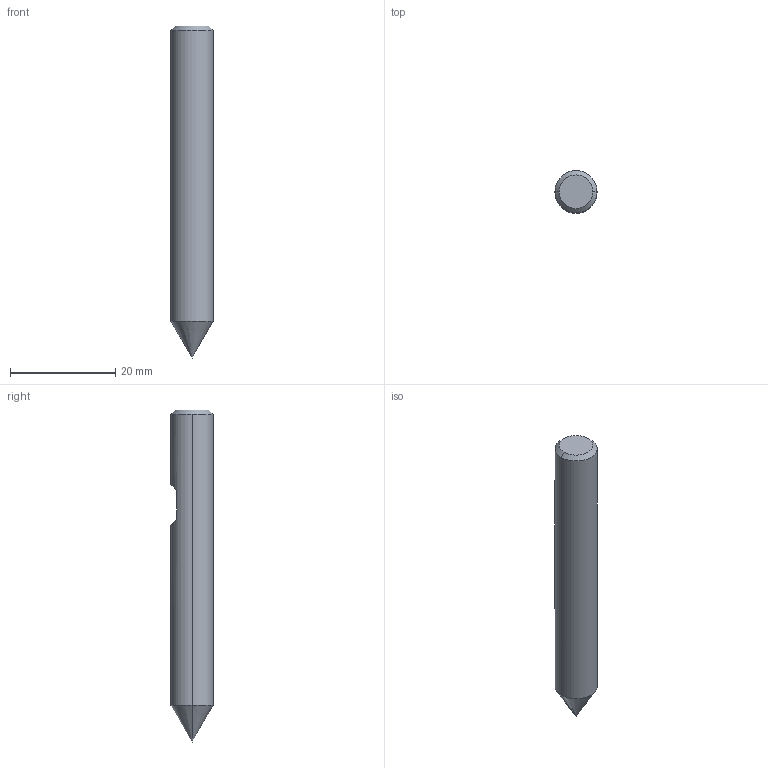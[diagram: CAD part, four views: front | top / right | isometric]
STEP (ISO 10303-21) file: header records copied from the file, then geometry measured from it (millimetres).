
FILE_DESCRIPTION (( 'STEP AP214' ), '1' );
FILE_NAME ('760.080.09_3D-model.step', '2022-02-19T09:46:36', ( '' ), ( '' ), 'SwSTEP 2.0', 'SolidWorks 2020', '' );
FILE_SCHEMA (( 'AUTOMOTIVE_DESIGN' ));
Length unit declared in the file: millimetre
Products named in the file (3): CUT-3D^Baugr68; 760.080.09_3D-model; NOCUT-3D^Baugr68
Assembly tree (2 placements, depth 2):
  760.080.09_3D-model
    CUT-3D^Baugr68
    NOCUT-3D^Baugr68
Bounding box: 8 x 8 x 63 mm (x, y, z)
Volume: 2900.4 mm3; surface area: 1647.8 mm2
Topology: 2 solids, 2 shells, 12 faces, 22 edges, 13 vertices
Faces by surface type: plane 6, cone 4, cylinder 2
Entity records: 406 total; most frequent: DIRECTION 66, CARTESIAN_POINT 59, ORIENTED_EDGE 40, AXIS2_PLACEMENT_3D 28, EDGE_CURVE 20, EDGE_LOOP 13, VERTEX_POINT 13, ADVANCED_FACE 12
